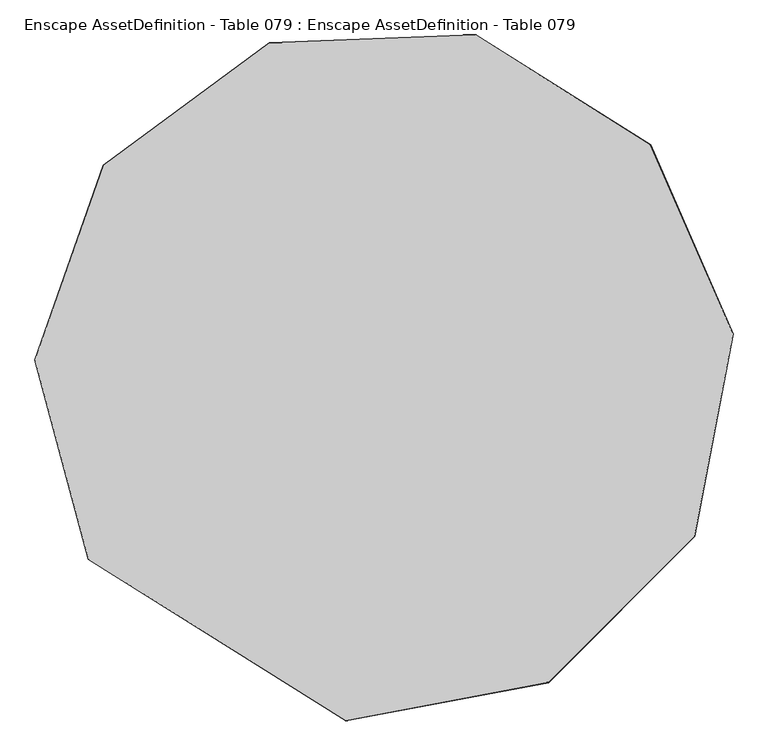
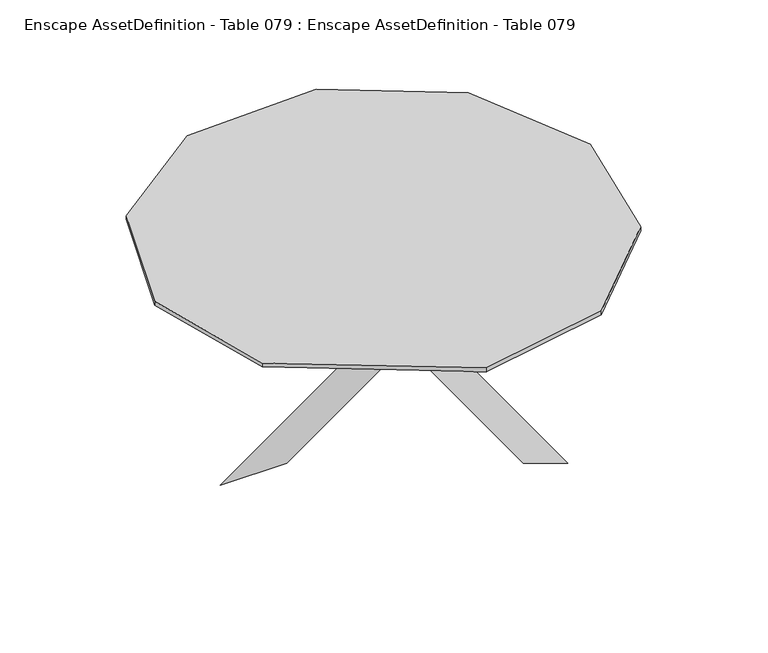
"""IFC4 building model written with IfcOpenShell, lengths in millimetres: geographic element geometry, Enscape AssetDefinition - Table 079 : Enscape AssetDefinition - Table 079."""

from ifc_helpers import new_model, si_unit, origin, place, context, project, spatial, triangles, source, transform, mapped, element, save


def enscape_assetdefinition_table_079_enscape_assetdefinition_5f5be555(model_context):
    return source(origin(), model_context, "Body", "Tessellation", [
        triangles([(-392.3029801, -70.7330054, 0.268), (474.3820181, -0.041, 700.3849382), (-514.5390146, -0.04, 0.23), (351.9519911, -70.7319971, 700.517997), (596.8149882, -70.7319971, 700.2520248), (-636.7830065, -70.7309979, 0.192), (-237.1550011, 410.8470154, 700.3849382), (257.3040074, -445.5839939, 0.23), (-237.1520034, 552.2230153, 700.2520248), (-114.7200052, 340.1649925, 700.517997), (379.6460129, -516.103999, 0.192), (257.4079981, -304.3780054, 0.268), (-359.663984, -481.4909955, 700.2520248), (-237.2309957, -269.4329909, 700.517997), (-237.2259996, -410.8059932, 700.3849382), (257.1359944, 586.8359825, 0.192), (257.2349891, 445.6239987, 0.23), (134.8950002, 375.1110063, 0.268), (724.4599949, -382.9050073, 714.9730013), (382.9140183, -724.5229998, 700.1609694), (-91.7520031, -814.3339422, 700.1609694), (814.321007, 91.7370059, 700.1609694), (724.5079571, -382.9300057, 700.1609694), (814.2659958, 91.7310015, 714.9730013), (382.8880025, -724.4750376, 714.9730013), (-693.8660048, -435.9999859, 700.1609694), (-693.8189873, -435.9700095, 714.9730013), (-818.843042, 30.6240006, 714.9730013), (-818.8970358, 30.6260013, 700.1609694), (-659.2990013, 486.571027, 714.9730013), (-91.7449996, -814.2799484, 714.9730013), (-659.343984, 486.6040192, 700.1609694), (-270.6530109, 773.4710295, 700.1609694), (212.096011, 791.5340258, 700.1609694), (621.0960279, 534.479985, 714.9730013), (212.0820039, 791.4810493, 714.9730013), (621.1379585, 534.5159929, 700.1609694), (-270.6350069, 773.4189978, 714.9730013)], [[24, 22, 37], [24, 35, 38], [24, 37, 35], [35, 36, 38], [35, 37, 34], [34, 37, 22], [35, 34, 36], [36, 34, 33], [36, 33, 38], [30, 38, 33], [32, 33, 34], [30, 33, 32], [28, 30, 32], [30, 28, 31], [38, 30, 31], [28, 27, 31], [27, 28, 29], [28, 32, 29], [27, 29, 26], [27, 26, 21], [27, 21, 31], [25, 31, 21], [31, 25, 38], [19, 24, 38], [25, 19, 38], [24, 19, 23], [24, 23, 22], [19, 25, 20], [34, 22, 20], [29, 32, 20], [26, 29, 20], [20, 21, 26], [22, 23, 20], [25, 21, 20], [19, 20, 23], [20, 32, 34], [14, 17, 16], [18, 13, 14], [16, 17, 18], [18, 14, 16], [14, 15, 17], [15, 13, 18], [14, 13, 15], [15, 18, 17], [10, 8, 11], [12, 9, 10], [11, 8, 12], [12, 10, 11], [10, 7, 8], [7, 9, 12], [10, 9, 7], [7, 12, 8], [4, 3, 6], [1, 5, 4], [6, 3, 1], [1, 4, 6], [4, 2, 3], [2, 5, 1], [4, 5, 2], [2, 1, 3]]),
    ])


if __name__ == "__main__":
    model = new_model("IFC4")
    model_context = context("Model", 3, world=origin())
    ifc_project = project(units=[si_unit("LENGTHUNIT", "METRE", prefix="MILLI")], contexts=[model_context])
    site = spatial("IfcSite", under=ifc_project)
    building = spatial("IfcBuilding", under=site)
    placement = place(None, origin())
    enscape_assetdefinition_table_079_enscape_assetdefinition_shape = enscape_assetdefinition_table_079_enscape_assetdefinition_5f5be555(model_context)
    element("IfcGeographicElement", 1, ObjectType="Enscape AssetDefinition - Table 079 : Enscape AssetDefinition - Table 079", at=placement, inside=building, context=model_context, shape_type="MappedRepresentation", body=[
        mapped(enscape_assetdefinition_table_079_enscape_assetdefinition_shape, transform((0.0, 0.0, 0.0), x_axis=(1.0, 0.0, 0.0), y_axis=(0.0, 1.0, 0.0), z_axis=(0.0, 0.0, 1.0))),
    ])
    save(model, "model.ifc")
